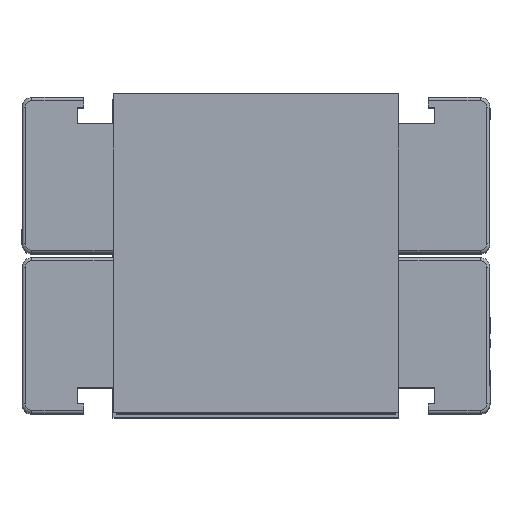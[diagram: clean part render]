
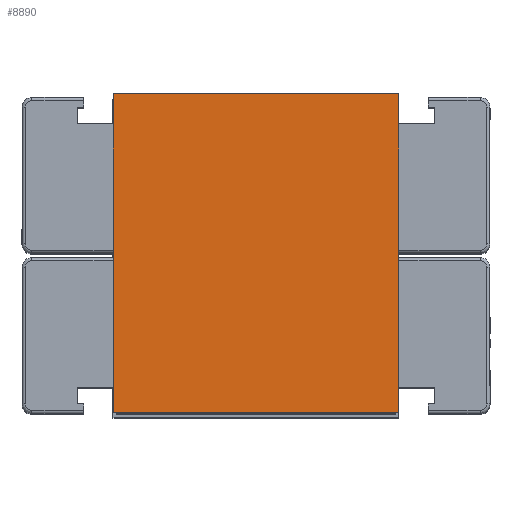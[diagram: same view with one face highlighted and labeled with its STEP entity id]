
A CAD part, top view. The second image highlights one B-rep face of the part: STEP entity #8890.
In plain terms, the highlighted planar face has unit normal (0, 0, 1).
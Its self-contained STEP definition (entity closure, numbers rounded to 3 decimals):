
#136 = EDGE_CURVE ( 'NONE', #3453, #6948, #4065, .T. ) ;
#906 = CARTESIAN_POINT ( 'NONE',  ( 0., 0., 47.5 ) ) ;
#1374 = DIRECTION ( 'NONE',  ( 0., 1., 0. ) ) ;
#1764 = LINE ( 'NONE', #7297, #9147 ) ;
#1912 = VECTOR ( 'NONE', #2242, 1000. ) ;
#2242 = DIRECTION ( 'NONE',  ( -1., 0., 0. ) ) ;
#2898 = CARTESIAN_POINT ( 'NONE',  ( 0., 98., 47.5 ) ) ;
#3297 = FACE_OUTER_BOUND ( 'NONE', #3989, .T. ) ;
#3407 = CARTESIAN_POINT ( 'NONE',  ( 88., 0., 47.5 ) ) ;
#3445 = CARTESIAN_POINT ( 'NONE',  ( 88., 0., 47.5 ) ) ;
#3453 = VERTEX_POINT ( 'NONE', #7743 ) ;
#3965 = VECTOR ( 'NONE', #5571, 1000. ) ;
#3989 = EDGE_LOOP ( 'NONE', ( #4401, #10608, #8674, #5229 ) ) ;
#4004 = CARTESIAN_POINT ( 'NONE',  ( 88., 98., 47.5 ) ) ;
#4065 = LINE ( 'NONE', #4004, #1912 ) ;
#4137 = AXIS2_PLACEMENT_3D ( 'NONE', #6792, #6907, #1374 ) ;
#4186 = CARTESIAN_POINT ( 'NONE',  ( 0., 0., 47.5 ) ) ;
#4247 = VECTOR ( 'NONE', #11424, 1000. ) ;
#4272 = EDGE_CURVE ( 'NONE', #3453, #11268, #8230, .T. ) ;
#4401 = ORIENTED_EDGE ( 'NONE', *, *, #7535, .T. ) ;
#5229 = ORIENTED_EDGE ( 'NONE', *, *, #136, .T. ) ;
#5571 = DIRECTION ( 'NONE',  ( 0., -1., 0. ) ) ;
#6484 = EDGE_CURVE ( 'NONE', #11268, #8954, #1764, .T. ) ;
#6792 = CARTESIAN_POINT ( 'NONE',  ( 88., 0., 47.5 ) ) ;
#6907 = DIRECTION ( 'NONE',  ( 0., 0., -1. ) ) ;
#6948 = VERTEX_POINT ( 'NONE', #2898 ) ;
#7124 = DIRECTION ( 'NONE',  ( -1., 0., 0. ) ) ;
#7297 = CARTESIAN_POINT ( 'NONE',  ( 88., 0., 47.5 ) ) ;
#7535 = EDGE_CURVE ( 'NONE', #6948, #8954, #10411, .T. ) ;
#7743 = CARTESIAN_POINT ( 'NONE',  ( 88., 98., 47.5 ) ) ;
#8230 = LINE ( 'NONE', #3445, #3965 ) ;
#8674 = ORIENTED_EDGE ( 'NONE', *, *, #4272, .F. ) ;
#8890 = ADVANCED_FACE ( 'NONE', ( #3297 ), #10599, .F. ) ;
#8954 = VERTEX_POINT ( 'NONE', #906 ) ;
#9147 = VECTOR ( 'NONE', #7124, 1000. ) ;
#10411 = LINE ( 'NONE', #4186, #4247 ) ;
#10599 = PLANE ( 'NONE',  #4137 ) ;
#10608 = ORIENTED_EDGE ( 'NONE', *, *, #6484, .F. ) ;
#11268 = VERTEX_POINT ( 'NONE', #3407 ) ;
#11424 = DIRECTION ( 'NONE',  ( 0., -1., 0. ) ) ;
